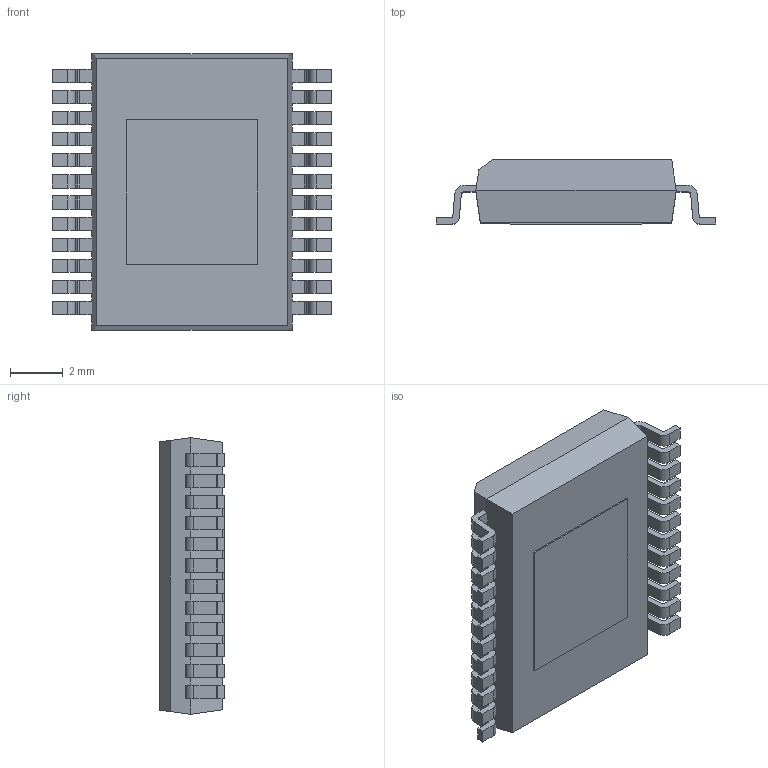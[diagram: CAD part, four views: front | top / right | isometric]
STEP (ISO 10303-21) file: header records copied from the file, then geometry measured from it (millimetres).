
FILE_DESCRIPTION (( 'STEP AP214' ), '1' );
FILE_NAME ('SOP80P1040X245_HS2-24_MO-271.BB.STEP', '2014-10-29T14:23:29', ( 'Tester2' ), ( '' ), 'SwSTEP 2.0', 'SolidWorks 2012', '' );
FILE_SCHEMA (( 'AUTOMOTIVE_DESIGN' ));
Length unit declared in the file: millimetre
Products named in the file (1): SOP80P1040X245_HS2-24_MO-271.BB
Bounding box: 10.6 x 2.45 x 10.5 mm (x, y, z)
Volume: 192.2 mm3; surface area: 322.4 mm2
Topology: 1 solids, 1 shells, 331 faces, 977 edges, 650 vertices
Faces by surface type: plane 233, cylinder 98
Entity records: 14549 total; most frequent: CARTESIAN_POINT 1959, ORIENTED_EDGE 1954, DIRECTION 1837, EDGE_CURVE 977, VECTOR 781, LINE 781, VERTEX_POINT 650, AXIS2_PLACEMENT_3D 528
